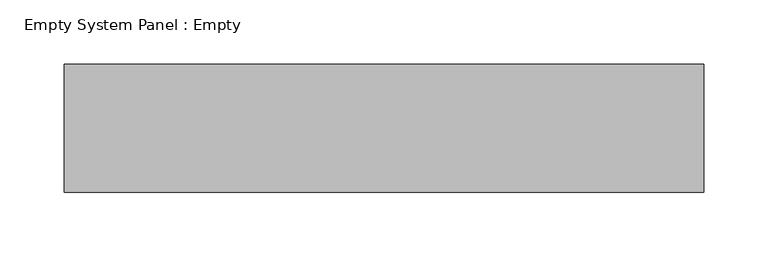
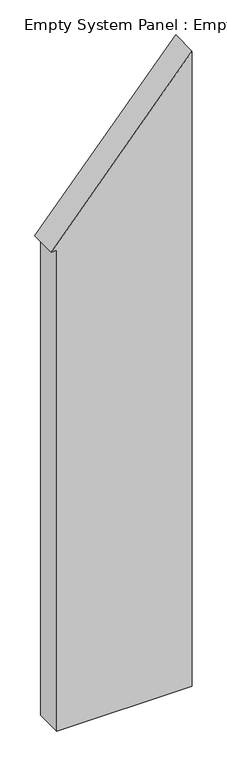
"""IFC4 building model written with IfcOpenShell, lengths in millimetres: plate geometry, Empty System Panel : Empty."""

from ifc_helpers import new_model, si_unit, frame, origin, place, context, project, spatial, polyline, outline, extrude, source, transform, mapped, element, save


def empty_system_panel_empty_a4206720(model_context):
    return source(origin(), model_context, "Body", "SweptSolid", [
        extrude(outline(polyline([(0.0, -229.7473037), (0.0, 249.7473037), (2375.8734839, 249.7473037), (1799.2221566, -249.7473037), (1799.2221566, -229.7473037), (0.0, -229.7473037)])), frame((0.0, -50.0, 0.0), z_axis=(0.0, 1.0, 0.0), x_axis=(0.0, 0.0, 1.0)), (0.0, 0.0, 1.0), 100.0),
    ])


if __name__ == "__main__":
    model = new_model("IFC4")
    model_context = context("Model", 3, world=origin())
    ifc_project = project(units=[si_unit("LENGTHUNIT", "METRE", prefix="MILLI")], contexts=[model_context])
    site = spatial("IfcSite", under=ifc_project)
    building = spatial("IfcBuilding", under=site)
    placement = place(None, origin())
    empty_system_panel_empty_shape = empty_system_panel_empty_a4206720(model_context)
    element("IfcPlate", 1, ObjectType="Empty System Panel : Empty", at=placement, inside=building, context=model_context, shape_type="MappedRepresentation", body=[
        mapped(empty_system_panel_empty_shape, transform((0.0, 0.0, 0.0), x_axis=(1.0, 0.0, 0.0), y_axis=(0.0, 1.0, 0.0), z_axis=(0.0, 0.0, 1.0))),
    ])
    save(model, "model.ifc")
